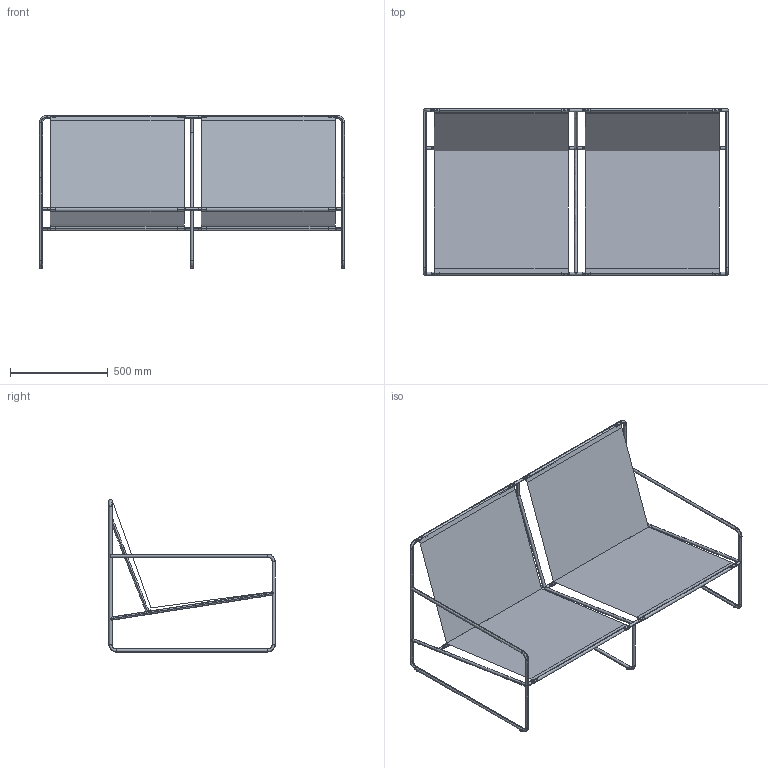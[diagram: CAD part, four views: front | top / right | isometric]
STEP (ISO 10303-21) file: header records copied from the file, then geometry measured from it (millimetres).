
FILE_DESCRIPTION(/* description */ (''),/* implementation_level */ '2;1');
FILE_NAME(/* name */ 'Desert Sofa_2seater',/* time_stamp */ '2022-02-09T14:57:21+01:00',/* author */ (''),/* organization */ (''),/* preprocessor_version */ 'ST-DEVELOPER v16.5',/* originating_system */ 'Rhino 7.14',/* authorisation */ '');
FILE_SCHEMA (('CONFIG_CONTROL_DESIGN'));
Length unit declared in the file: millimetre
Products named in the file (1): Document
Bounding box: 1560 x 852 x 783.5 mm (x, y, z)
Volume: 1749148.6 mm3; surface area: 3024342.8 mm2
Topology: 16 solids, 25 shells, 420 faces, 1123 edges, 654 vertices
Faces by surface type: cylinder 237, bspline 131, plane 52
Entity records: 19857 total; most frequent: CARTESIAN_POINT 13054, ORIENTED_EDGE 2127, EDGE_CURVE 1097, VERTEX_POINT 648, B_SPLINE_CURVE_WITH_KNOTS 539, EDGE_LOOP 479, ADVANCED_FACE 419, FACE_OUTER_BOUND 419
